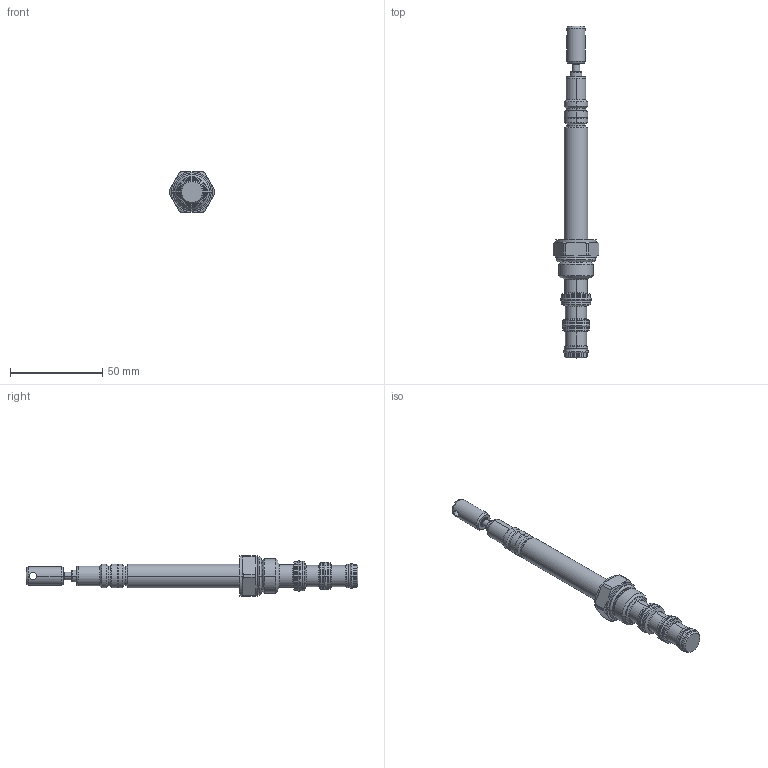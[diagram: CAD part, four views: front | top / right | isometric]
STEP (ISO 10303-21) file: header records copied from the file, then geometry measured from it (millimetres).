
FILE_DESCRIPTION((''),'2;1');
FILE_NAME('5003650_SW0002','2009-02-26T',('JCS'),(''),'PRO/ENGINEER BY PARAMETRIC TECHNOLOGY CORPORATION, 2008010','PRO/ENGINEER BY PARAMETRIC TECHNOLOGY CORPORATION, 2008010','');
FILE_SCHEMA(('CONFIG_CONTROL_DESIGN'));
Length unit declared in the file: inch
Products named in the file (1): 5003650_SW0002
Bounding box: 24.94 x 180.24 x 22.23 mm (x, y, z)
Volume: 24927.7 mm3; surface area: 10931.5 mm2
Topology: 5 solids, 5 shells, 274 faces, 602 edges, 352 vertices
Faces by surface type: cylinder 98, cone 74, torus 38, plane 32, revolution 32
Entity records: 8106 total; most frequent: CARTESIAN_POINT 1884, DIRECTION 1414, ORIENTED_EDGE 1204, EDGE_CURVE 602, AXIS2_PLACEMENT_3D 598, CIRCLE 356, VERTEX_POINT 352, EDGE_LOOP 298
